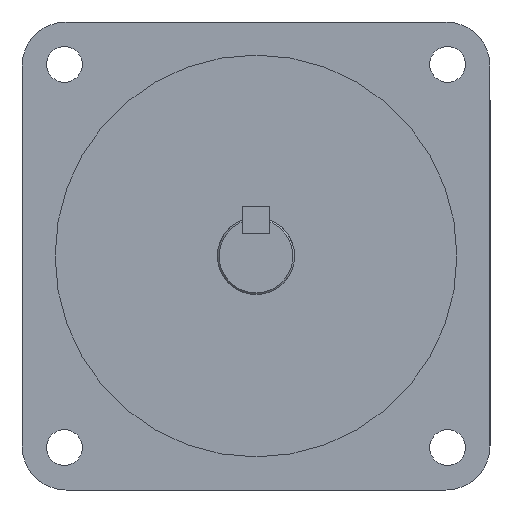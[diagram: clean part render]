
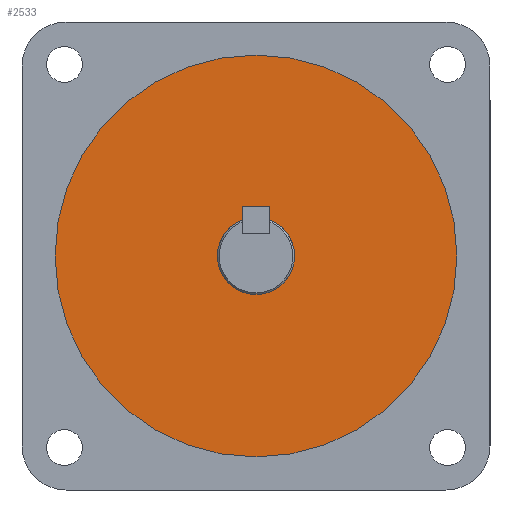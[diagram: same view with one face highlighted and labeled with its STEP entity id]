
A CAD part, left-side view. The second image highlights one B-rep face of the part: STEP entity #2533.
In plain terms, the highlighted planar face has unit normal (-1, 0, 0).
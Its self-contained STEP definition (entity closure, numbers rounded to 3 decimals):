
#50 = CARTESIAN_POINT ( 'NONE',  ( -1.5, 0., 0. ) ) ;
#96 = CARTESIAN_POINT ( 'NONE',  ( -1.5, 0., 0. ) ) ;
#205 = VERTEX_POINT ( 'NONE', #1754 ) ;
#299 = EDGE_CURVE ( 'NONE', #2162, #205, #2600, .T. ) ;
#333 = ORIENTED_EDGE ( 'NONE', *, *, #299, .F. ) ;
#366 = PLANE ( 'NONE',  #2301 ) ;
#690 = DIRECTION ( 'NONE',  ( 0., 0., 1. ) ) ;
#742 = AXIS2_PLACEMENT_3D ( 'NONE', #1812, #1519, #1226 ) ;
#778 = EDGE_CURVE ( 'NONE', #205, #2162, #2174, .T. ) ;
#840 = ORIENTED_EDGE ( 'NONE', *, *, #2101, .T. ) ;
#943 = EDGE_CURVE ( 'NONE', #1336, #1012, #1931, .T. ) ;
#990 = DIRECTION ( 'NONE',  ( -1., 0., 0. ) ) ;
#1012 = VERTEX_POINT ( 'NONE', #1733 ) ;
#1176 = CIRCLE ( 'NONE', #742, 36.5 ) ;
#1203 = DIRECTION ( 'NONE',  ( 0., 0., 1. ) ) ;
#1226 = DIRECTION ( 'NONE',  ( 0., 0., 1. ) ) ;
#1281 = EDGE_LOOP ( 'NONE', ( #1606, #840 ) ) ;
#1292 = CARTESIAN_POINT ( 'NONE',  ( -1.5, 0., 0. ) ) ;
#1336 = VERTEX_POINT ( 'NONE', #2521 ) ;
#1435 = AXIS2_PLACEMENT_3D ( 'NONE', #1292, #990, #690 ) ;
#1488 = DIRECTION ( 'NONE',  ( -1., 0., 0. ) ) ;
#1519 = DIRECTION ( 'NONE',  ( -1., 0., 0. ) ) ;
#1522 = ORIENTED_EDGE ( 'NONE', *, *, #778, .F. ) ;
#1606 = ORIENTED_EDGE ( 'NONE', *, *, #943, .T. ) ;
#1608 = AXIS2_PLACEMENT_3D ( 'NONE', #1786, #1488, #1203 ) ;
#1733 = CARTESIAN_POINT ( 'NONE',  ( -1.5, 0., 36.5 ) ) ;
#1754 = CARTESIAN_POINT ( 'NONE',  ( -1.5, 0., 7. ) ) ;
#1786 = CARTESIAN_POINT ( 'NONE',  ( -1.5, 0., 0. ) ) ;
#1812 = CARTESIAN_POINT ( 'NONE',  ( -1.5, 0., 0. ) ) ;
#1875 = FACE_BOUND ( 'NONE', #2016, .T. ) ;
#1931 = CIRCLE ( 'NONE', #1435, 36.5 ) ;
#2010 = AXIS2_PLACEMENT_3D ( 'NONE', #96, #2698, #2407 ) ;
#2016 = EDGE_LOOP ( 'NONE', ( #333, #1522 ) ) ;
#2092 = FACE_OUTER_BOUND ( 'NONE', #1281, .T. ) ;
#2101 = EDGE_CURVE ( 'NONE', #1012, #1336, #1176, .T. ) ;
#2162 = VERTEX_POINT ( 'NONE', #2538 ) ;
#2174 = CIRCLE ( 'NONE', #1608, 7. ) ;
#2301 = AXIS2_PLACEMENT_3D ( 'NONE', #50, #2660, #2360 ) ;
#2360 = DIRECTION ( 'NONE',  ( 0., 0., 1. ) ) ;
#2407 = DIRECTION ( 'NONE',  ( 0., 0., 1. ) ) ;
#2521 = CARTESIAN_POINT ( 'NONE',  ( -1.5, 0., -36.5 ) ) ;
#2533 = ADVANCED_FACE ( 'NONE', ( #2092, #1875 ), #366, .T. ) ;
#2538 = CARTESIAN_POINT ( 'NONE',  ( -1.5, 0., -7. ) ) ;
#2600 = CIRCLE ( 'NONE', #2010, 7. ) ;
#2660 = DIRECTION ( 'NONE',  ( -1., 0., 0. ) ) ;
#2698 = DIRECTION ( 'NONE',  ( -1., 0., 0. ) ) ;
